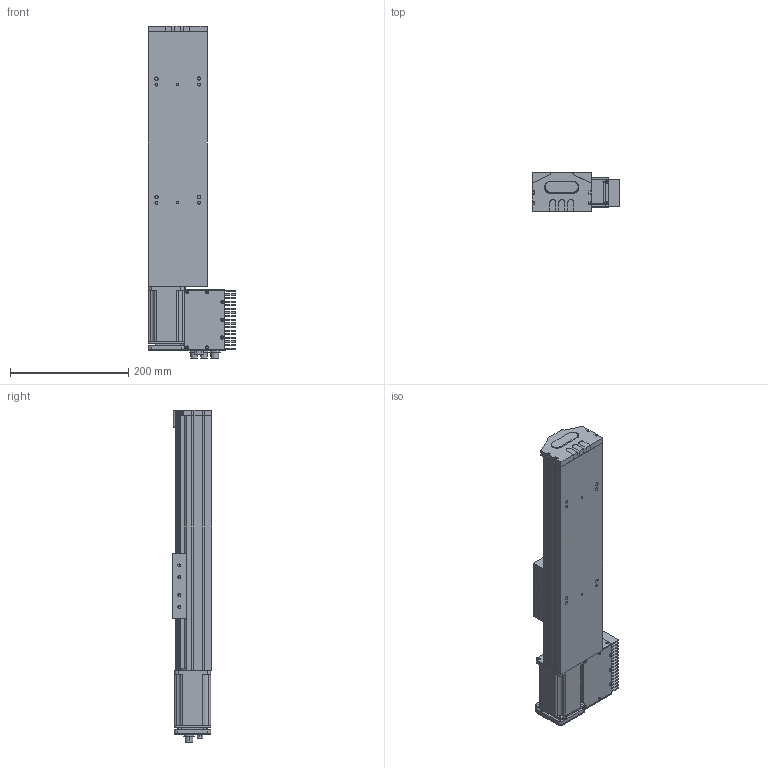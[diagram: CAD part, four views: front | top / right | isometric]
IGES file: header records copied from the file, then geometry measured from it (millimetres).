
Start section: SolidWorks IGES file using analytic representation for surfaces
Global section: file name: C:\Documents and Settings\1EDPI\Mes documents\yanize\S 10 TSH MD\S 10 TSH MD S200.IGS; native system: SolidWorks 2010; preprocessor: SolidWorks 2010; author: 1EDPI; date: 120829.095357; units: millimetre
Bounding box: 148.26 x 66.75 x 561.6 mm (x, y, z)
Surface area: 459438.9 mm2 (no closed solid volume)
Topology: 0 solids, 0 shells, 1706 faces, 23016 edges, 22988 vertices
Faces by surface type: revolution 908, bspline 798
